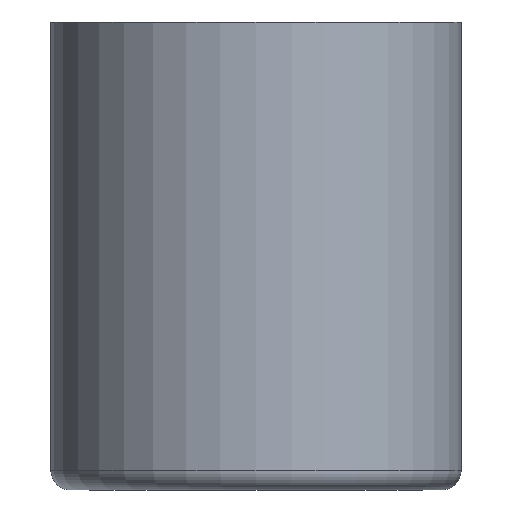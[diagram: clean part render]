
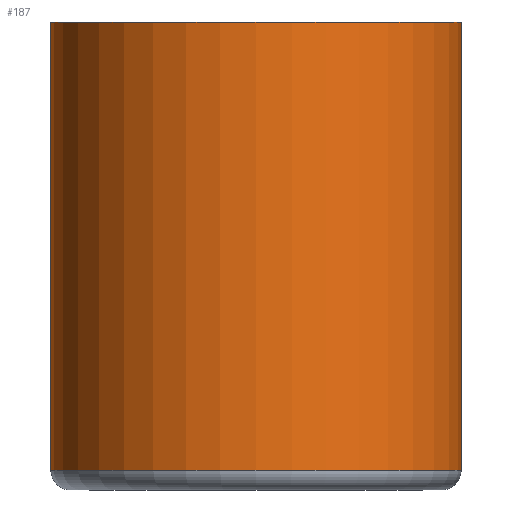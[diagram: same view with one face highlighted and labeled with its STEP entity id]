
A CAD part, front view. The second image highlights one B-rep face of the part: STEP entity #187.
In plain terms, the highlighted cylindrical face has radius 10.382 mm (diameter 20.764 mm), a full revolution.
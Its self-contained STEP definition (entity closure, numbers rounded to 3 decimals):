
#145 = EDGE_CURVE('',#146,#146,#148,.T.);
#146 = VERTEX_POINT('',#147);
#147 = CARTESIAN_POINT('',(10.382,0.,23.683));
#148 = CIRCLE('',#149,10.382);
#149 = AXIS2_PLACEMENT_3D('',#150,#151,#152);
#150 = CARTESIAN_POINT('',(0.,0.,23.683));
#151 = DIRECTION('',(0.,0.,-1.));
#152 = DIRECTION('',(1.,0.,0.));
#166 = VERTEX_POINT('',#167);
#167 = CARTESIAN_POINT('',(10.382,0.,1.));
#176 = EDGE_CURVE('',#166,#166,#177,.T.);
#177 = CIRCLE('',#178,10.382);
#178 = AXIS2_PLACEMENT_3D('',#179,#180,#181);
#179 = CARTESIAN_POINT('',(0.,0.,1.));
#180 = DIRECTION('',(0.,0.,-1.));
#181 = DIRECTION('',(1.,0.,0.));
#187 = ADVANCED_FACE('',(#188),#199,.T.);
#188 = FACE_BOUND('',#189,.F.);
#189 = EDGE_LOOP('',(#190,#196,#197,#198));
#190 = ORIENTED_EDGE('',*,*,#191,.F.);
#191 = EDGE_CURVE('',#166,#146,#192,.T.);
#192 = LINE('',#193,#194);
#193 = CARTESIAN_POINT('',(10.382,0.,0.));
#194 = VECTOR('',#195,1.);
#195 = DIRECTION('',(0.,0.,1.));
#196 = ORIENTED_EDGE('',*,*,#176,.T.);
#197 = ORIENTED_EDGE('',*,*,#191,.T.);
#198 = ORIENTED_EDGE('',*,*,#145,.F.);
#199 = CYLINDRICAL_SURFACE('',#200,10.382);
#200 = AXIS2_PLACEMENT_3D('',#201,#202,#203);
#201 = CARTESIAN_POINT('',(0.,0.,0.));
#202 = DIRECTION('',(0.,0.,1.));
#203 = DIRECTION('',(1.,0.,0.));
